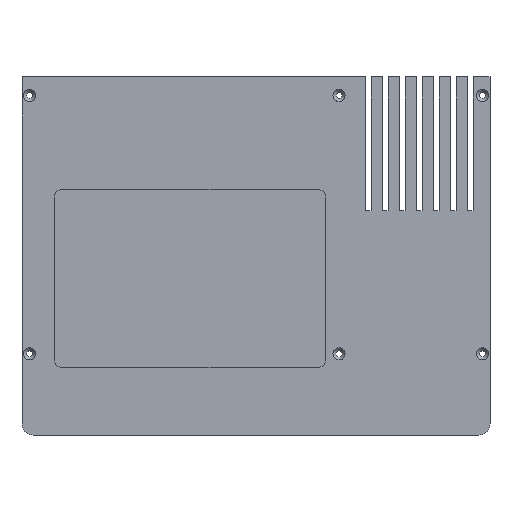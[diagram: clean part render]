
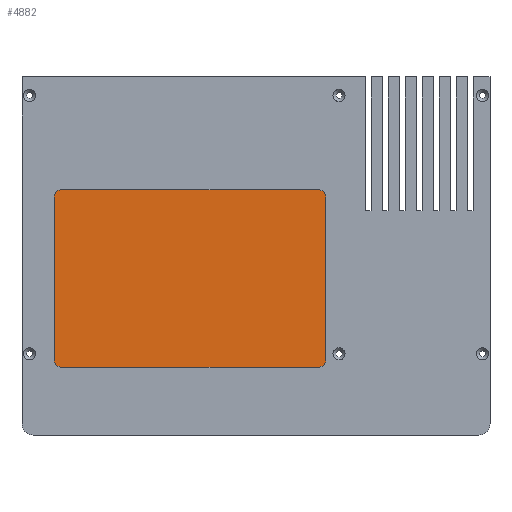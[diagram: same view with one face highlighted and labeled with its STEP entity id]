
A CAD part, top view. The second image highlights one B-rep face of the part: STEP entity #4882.
In plain terms, the highlighted planar face has unit normal (0, 0, 1).
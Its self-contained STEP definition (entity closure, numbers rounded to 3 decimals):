
#1052 = CYLINDRICAL_SURFACE('',#1053,4.);
#1053 = AXIS2_PLACEMENT_3D('',#1054,#1055,#1056);
#1054 = CARTESIAN_POINT('',(21.,40.,70.8));
#1055 = DIRECTION('',(0.,0.,1.));
#1056 = DIRECTION('',(-1.,-0.,0.));
#1079 = PLANE('',#1080);
#1080 = AXIS2_PLACEMENT_3D('',#1081,#1082,#1083);
#1081 = CARTESIAN_POINT('',(17.,36.,70.8));
#1082 = DIRECTION('',(1.,0.,0.));
#1083 = DIRECTION('',(0.,0.,1.));
#1107 = CYLINDRICAL_SURFACE('',#1108,4.);
#1108 = AXIS2_PLACEMENT_3D('',#1109,#1110,#1111);
#1109 = CARTESIAN_POINT('',(21.,126.,70.8));
#1110 = DIRECTION('',(0.,0.,1.));
#1111 = DIRECTION('',(-1.,-0.,0.));
#1134 = PLANE('',#1135);
#1135 = AXIS2_PLACEMENT_3D('',#1136,#1137,#1138);
#1136 = CARTESIAN_POINT('',(17.,130.,70.8));
#1137 = DIRECTION('',(0.,1.,0.));
#1138 = DIRECTION('',(0.,0.,1.));
#1162 = CYLINDRICAL_SURFACE('',#1163,4.);
#1163 = AXIS2_PLACEMENT_3D('',#1164,#1165,#1166);
#1164 = CARTESIAN_POINT('',(157.,126.,70.8));
#1165 = DIRECTION('',(0.,0.,1.));
#1166 = DIRECTION('',(1.,0.,-0.));
#1189 = PLANE('',#1190);
#1190 = AXIS2_PLACEMENT_3D('',#1191,#1192,#1193);
#1191 = CARTESIAN_POINT('',(161.,36.,70.8));
#1192 = DIRECTION('',(1.,0.,0.));
#1193 = DIRECTION('',(0.,0.,1.));
#1217 = CYLINDRICAL_SURFACE('',#1218,4.);
#1218 = AXIS2_PLACEMENT_3D('',#1219,#1220,#1221);
#1219 = CARTESIAN_POINT('',(157.,40.,70.8));
#1220 = DIRECTION('',(0.,0.,1.));
#1221 = DIRECTION('',(1.,0.,-0.));
#1242 = PLANE('',#1243);
#1243 = AXIS2_PLACEMENT_3D('',#1244,#1245,#1246);
#1244 = CARTESIAN_POINT('',(17.,36.,70.8));
#1245 = DIRECTION('',(0.,1.,0.));
#1246 = DIRECTION('',(0.,0.,1.));
#3442 = VERTEX_POINT('',#3443);
#3443 = CARTESIAN_POINT('',(17.,40.,70.8));
#3464 = EDGE_CURVE('',#3442,#3465,#3467,.T.);
#3465 = VERTEX_POINT('',#3466);
#3466 = CARTESIAN_POINT('',(21.,36.,70.8));
#3467 = SURFACE_CURVE('',#3468,(#3473,#3480),.PCURVE_S1.);
#3468 = CIRCLE('',#3469,4.);
#3469 = AXIS2_PLACEMENT_3D('',#3470,#3471,#3472);
#3470 = CARTESIAN_POINT('',(21.,40.,70.8));
#3471 = DIRECTION('',(0.,0.,1.));
#3472 = DIRECTION('',(0.,-1.,0.));
#3473 = PCURVE('',#1052,#3474);
#3474 = DEFINITIONAL_REPRESENTATION('',(#3475),#3479);
#3475 = LINE('',#3476,#3477);
#3476 = CARTESIAN_POINT('',(-4.712,0.));
#3477 = VECTOR('',#3478,1.);
#3478 = DIRECTION('',(1.,0.));
#3479 = ( GEOMETRIC_REPRESENTATION_CONTEXT(2) 
PARAMETRIC_REPRESENTATION_CONTEXT() REPRESENTATION_CONTEXT('2D SPACE',''
  ) );
#3480 = PCURVE('',#3481,#3486);
#3481 = PLANE('',#3482);
#3482 = AXIS2_PLACEMENT_3D('',#3483,#3484,#3485);
#3483 = CARTESIAN_POINT('',(17.,36.,70.8));
#3484 = DIRECTION('',(0.,0.,1.));
#3485 = DIRECTION('',(1.,0.,0.));
#3486 = DEFINITIONAL_REPRESENTATION('',(#3487),#3491);
#3487 = CIRCLE('',#3488,4.);
#3488 = AXIS2_PLACEMENT_2D('',#3489,#3490);
#3489 = CARTESIAN_POINT('',(4.,4.));
#3490 = DIRECTION('',(0.,-1.));
#3491 = ( GEOMETRIC_REPRESENTATION_CONTEXT(2) 
PARAMETRIC_REPRESENTATION_CONTEXT() REPRESENTATION_CONTEXT('2D SPACE',''
  ) );
#3520 = EDGE_CURVE('',#3442,#3521,#3523,.T.);
#3521 = VERTEX_POINT('',#3522);
#3522 = CARTESIAN_POINT('',(17.,126.,70.8));
#3523 = SURFACE_CURVE('',#3524,(#3528,#3535),.PCURVE_S1.);
#3524 = LINE('',#3525,#3526);
#3525 = CARTESIAN_POINT('',(17.,36.,70.8));
#3526 = VECTOR('',#3527,1.);
#3527 = DIRECTION('',(0.,1.,0.));
#3528 = PCURVE('',#1079,#3529);
#3529 = DEFINITIONAL_REPRESENTATION('',(#3530),#3534);
#3530 = LINE('',#3531,#3532);
#3531 = CARTESIAN_POINT('',(0.,0.));
#3532 = VECTOR('',#3533,1.);
#3533 = DIRECTION('',(0.,-1.));
#3534 = ( GEOMETRIC_REPRESENTATION_CONTEXT(2) 
PARAMETRIC_REPRESENTATION_CONTEXT() REPRESENTATION_CONTEXT('2D SPACE',''
  ) );
#3535 = PCURVE('',#3481,#3536);
#3536 = DEFINITIONAL_REPRESENTATION('',(#3537),#3541);
#3537 = LINE('',#3538,#3539);
#3538 = CARTESIAN_POINT('',(0.,0.));
#3539 = VECTOR('',#3540,1.);
#3540 = DIRECTION('',(0.,1.));
#3541 = ( GEOMETRIC_REPRESENTATION_CONTEXT(2) 
PARAMETRIC_REPRESENTATION_CONTEXT() REPRESENTATION_CONTEXT('2D SPACE',''
  ) );
#3567 = EDGE_CURVE('',#3465,#3568,#3570,.T.);
#3568 = VERTEX_POINT('',#3569);
#3569 = CARTESIAN_POINT('',(157.,36.,70.8));
#3570 = SURFACE_CURVE('',#3571,(#3575,#3582),.PCURVE_S1.);
#3571 = LINE('',#3572,#3573);
#3572 = CARTESIAN_POINT('',(17.,36.,70.8));
#3573 = VECTOR('',#3574,1.);
#3574 = DIRECTION('',(1.,0.,0.));
#3575 = PCURVE('',#1242,#3576);
#3576 = DEFINITIONAL_REPRESENTATION('',(#3577),#3581);
#3577 = LINE('',#3578,#3579);
#3578 = CARTESIAN_POINT('',(0.,0.));
#3579 = VECTOR('',#3580,1.);
#3580 = DIRECTION('',(0.,1.));
#3581 = ( GEOMETRIC_REPRESENTATION_CONTEXT(2) 
PARAMETRIC_REPRESENTATION_CONTEXT() REPRESENTATION_CONTEXT('2D SPACE',''
  ) );
#3582 = PCURVE('',#3481,#3583);
#3583 = DEFINITIONAL_REPRESENTATION('',(#3584),#3588);
#3584 = LINE('',#3585,#3586);
#3585 = CARTESIAN_POINT('',(0.,0.));
#3586 = VECTOR('',#3587,1.);
#3587 = DIRECTION('',(1.,0.));
#3588 = ( GEOMETRIC_REPRESENTATION_CONTEXT(2) 
PARAMETRIC_REPRESENTATION_CONTEXT() REPRESENTATION_CONTEXT('2D SPACE',''
  ) );
#3617 = EDGE_CURVE('',#3521,#3618,#3620,.T.);
#3618 = VERTEX_POINT('',#3619);
#3619 = CARTESIAN_POINT('',(21.,130.,70.8));
#3620 = SURFACE_CURVE('',#3621,(#3626,#3633),.PCURVE_S1.);
#3621 = CIRCLE('',#3622,4.);
#3622 = AXIS2_PLACEMENT_3D('',#3623,#3624,#3625);
#3623 = CARTESIAN_POINT('',(21.,126.,70.8));
#3624 = DIRECTION('',(-0.,-0.,-1.));
#3625 = DIRECTION('',(0.,-1.,0.));
#3626 = PCURVE('',#1107,#3627);
#3627 = DEFINITIONAL_REPRESENTATION('',(#3628),#3632);
#3628 = LINE('',#3629,#3630);
#3629 = CARTESIAN_POINT('',(1.571,-0.));
#3630 = VECTOR('',#3631,1.);
#3631 = DIRECTION('',(-1.,0.));
#3632 = ( GEOMETRIC_REPRESENTATION_CONTEXT(2) 
PARAMETRIC_REPRESENTATION_CONTEXT() REPRESENTATION_CONTEXT('2D SPACE',''
  ) );
#3633 = PCURVE('',#3481,#3634);
#3634 = DEFINITIONAL_REPRESENTATION('',(#3635),#3643);
#3635 = ( BOUNDED_CURVE() B_SPLINE_CURVE(2,(#3636,#3637,#3638,#3639,
#3640,#3641,#3642),.UNSPECIFIED.,.T.,.F.) B_SPLINE_CURVE_WITH_KNOTS((1,2
    ,2,2,2,1),(-2.094,0.,2.094,4.189,
6.283,8.378),.UNSPECIFIED.) CURVE() 
GEOMETRIC_REPRESENTATION_ITEM() RATIONAL_B_SPLINE_CURVE((1.,0.5,1.,0.5,
1.,0.5,1.)) REPRESENTATION_ITEM('') );
#3636 = CARTESIAN_POINT('',(4.,86.));
#3637 = CARTESIAN_POINT('',(-2.928,86.));
#3638 = CARTESIAN_POINT('',(0.536,92.));
#3639 = CARTESIAN_POINT('',(4.,98.));
#3640 = CARTESIAN_POINT('',(7.464,92.));
#3641 = CARTESIAN_POINT('',(10.928,86.));
#3642 = CARTESIAN_POINT('',(4.,86.));
#3643 = ( GEOMETRIC_REPRESENTATION_CONTEXT(2) 
PARAMETRIC_REPRESENTATION_CONTEXT() REPRESENTATION_CONTEXT('2D SPACE',''
  ) );
#3671 = VERTEX_POINT('',#3672);
#3672 = CARTESIAN_POINT('',(161.,40.,70.8));
#3693 = EDGE_CURVE('',#3671,#3568,#3694,.T.);
#3694 = SURFACE_CURVE('',#3695,(#3700,#3707),.PCURVE_S1.);
#3695 = CIRCLE('',#3696,4.);
#3696 = AXIS2_PLACEMENT_3D('',#3697,#3698,#3699);
#3697 = CARTESIAN_POINT('',(157.,40.,70.8));
#3698 = DIRECTION('',(-0.,-0.,-1.));
#3699 = DIRECTION('',(0.,-1.,0.));
#3700 = PCURVE('',#1217,#3701);
#3701 = DEFINITIONAL_REPRESENTATION('',(#3702),#3706);
#3702 = LINE('',#3703,#3704);
#3703 = CARTESIAN_POINT('',(4.712,-0.));
#3704 = VECTOR('',#3705,1.);
#3705 = DIRECTION('',(-1.,0.));
#3706 = ( GEOMETRIC_REPRESENTATION_CONTEXT(2) 
PARAMETRIC_REPRESENTATION_CONTEXT() REPRESENTATION_CONTEXT('2D SPACE',''
  ) );
#3707 = PCURVE('',#3481,#3708);
#3708 = DEFINITIONAL_REPRESENTATION('',(#3709),#3717);
#3709 = ( BOUNDED_CURVE() B_SPLINE_CURVE(2,(#3710,#3711,#3712,#3713,
#3714,#3715,#3716),.UNSPECIFIED.,.T.,.F.) B_SPLINE_CURVE_WITH_KNOTS((1,2
    ,2,2,2,1),(-2.094,0.,2.094,4.189,
6.283,8.378),.UNSPECIFIED.) CURVE() 
GEOMETRIC_REPRESENTATION_ITEM() RATIONAL_B_SPLINE_CURVE((1.,0.5,1.,0.5,
1.,0.5,1.)) REPRESENTATION_ITEM('') );
#3710 = CARTESIAN_POINT('',(140.,0.));
#3711 = CARTESIAN_POINT('',(133.072,0.));
#3712 = CARTESIAN_POINT('',(136.536,6.));
#3713 = CARTESIAN_POINT('',(140.,12.));
#3714 = CARTESIAN_POINT('',(143.464,6.));
#3715 = CARTESIAN_POINT('',(146.928,0.));
#3716 = CARTESIAN_POINT('',(140.,0.));
#3717 = ( GEOMETRIC_REPRESENTATION_CONTEXT(2) 
PARAMETRIC_REPRESENTATION_CONTEXT() REPRESENTATION_CONTEXT('2D SPACE',''
  ) );
#3724 = EDGE_CURVE('',#3618,#3725,#3727,.T.);
#3725 = VERTEX_POINT('',#3726);
#3726 = CARTESIAN_POINT('',(157.,130.,70.8));
#3727 = SURFACE_CURVE('',#3728,(#3732,#3739),.PCURVE_S1.);
#3728 = LINE('',#3729,#3730);
#3729 = CARTESIAN_POINT('',(17.,130.,70.8));
#3730 = VECTOR('',#3731,1.);
#3731 = DIRECTION('',(1.,0.,0.));
#3732 = PCURVE('',#1134,#3733);
#3733 = DEFINITIONAL_REPRESENTATION('',(#3734),#3738);
#3734 = LINE('',#3735,#3736);
#3735 = CARTESIAN_POINT('',(0.,0.));
#3736 = VECTOR('',#3737,1.);
#3737 = DIRECTION('',(0.,1.));
#3738 = ( GEOMETRIC_REPRESENTATION_CONTEXT(2) 
PARAMETRIC_REPRESENTATION_CONTEXT() REPRESENTATION_CONTEXT('2D SPACE',''
  ) );
#3739 = PCURVE('',#3481,#3740);
#3740 = DEFINITIONAL_REPRESENTATION('',(#3741),#3745);
#3741 = LINE('',#3742,#3743);
#3742 = CARTESIAN_POINT('',(0.,94.));
#3743 = VECTOR('',#3744,1.);
#3744 = DIRECTION('',(1.,0.));
#3745 = ( GEOMETRIC_REPRESENTATION_CONTEXT(2) 
PARAMETRIC_REPRESENTATION_CONTEXT() REPRESENTATION_CONTEXT('2D SPACE',''
  ) );
#3775 = EDGE_CURVE('',#3671,#3776,#3778,.T.);
#3776 = VERTEX_POINT('',#3777);
#3777 = CARTESIAN_POINT('',(161.,126.,70.8));
#3778 = SURFACE_CURVE('',#3779,(#3783,#3790),.PCURVE_S1.);
#3779 = LINE('',#3780,#3781);
#3780 = CARTESIAN_POINT('',(161.,36.,70.8));
#3781 = VECTOR('',#3782,1.);
#3782 = DIRECTION('',(0.,1.,0.));
#3783 = PCURVE('',#1189,#3784);
#3784 = DEFINITIONAL_REPRESENTATION('',(#3785),#3789);
#3785 = LINE('',#3786,#3787);
#3786 = CARTESIAN_POINT('',(0.,0.));
#3787 = VECTOR('',#3788,1.);
#3788 = DIRECTION('',(0.,-1.));
#3789 = ( GEOMETRIC_REPRESENTATION_CONTEXT(2) 
PARAMETRIC_REPRESENTATION_CONTEXT() REPRESENTATION_CONTEXT('2D SPACE',''
  ) );
#3790 = PCURVE('',#3481,#3791);
#3791 = DEFINITIONAL_REPRESENTATION('',(#3792),#3796);
#3792 = LINE('',#3793,#3794);
#3793 = CARTESIAN_POINT('',(144.,0.));
#3794 = VECTOR('',#3795,1.);
#3795 = DIRECTION('',(0.,1.));
#3796 = ( GEOMETRIC_REPRESENTATION_CONTEXT(2) 
PARAMETRIC_REPRESENTATION_CONTEXT() REPRESENTATION_CONTEXT('2D SPACE',''
  ) );
#3823 = EDGE_CURVE('',#3776,#3725,#3824,.T.);
#3824 = SURFACE_CURVE('',#3825,(#3830,#3837),.PCURVE_S1.);
#3825 = CIRCLE('',#3826,4.);
#3826 = AXIS2_PLACEMENT_3D('',#3827,#3828,#3829);
#3827 = CARTESIAN_POINT('',(157.,126.,70.8));
#3828 = DIRECTION('',(0.,0.,1.));
#3829 = DIRECTION('',(0.,-1.,0.));
#3830 = PCURVE('',#1162,#3831);
#3831 = DEFINITIONAL_REPRESENTATION('',(#3832),#3836);
#3832 = LINE('',#3833,#3834);
#3833 = CARTESIAN_POINT('',(-1.571,0.));
#3834 = VECTOR('',#3835,1.);
#3835 = DIRECTION('',(1.,0.));
#3836 = ( GEOMETRIC_REPRESENTATION_CONTEXT(2) 
PARAMETRIC_REPRESENTATION_CONTEXT() REPRESENTATION_CONTEXT('2D SPACE',''
  ) );
#3837 = PCURVE('',#3481,#3838);
#3838 = DEFINITIONAL_REPRESENTATION('',(#3839),#3843);
#3839 = CIRCLE('',#3840,4.);
#3840 = AXIS2_PLACEMENT_2D('',#3841,#3842);
#3841 = CARTESIAN_POINT('',(140.,90.));
#3842 = DIRECTION('',(0.,-1.));
#3843 = ( GEOMETRIC_REPRESENTATION_CONTEXT(2) 
PARAMETRIC_REPRESENTATION_CONTEXT() REPRESENTATION_CONTEXT('2D SPACE',''
  ) );
#4882 = ADVANCED_FACE('',(#4883),#3481,.T.);
#4883 = FACE_BOUND('',#4884,.T.);
#4884 = EDGE_LOOP('',(#4885,#4886,#4887,#4888,#4889,#4890,#4891,#4892));
#4885 = ORIENTED_EDGE('',*,*,#3520,.F.);
#4886 = ORIENTED_EDGE('',*,*,#3464,.T.);
#4887 = ORIENTED_EDGE('',*,*,#3567,.T.);
#4888 = ORIENTED_EDGE('',*,*,#3693,.F.);
#4889 = ORIENTED_EDGE('',*,*,#3775,.T.);
#4890 = ORIENTED_EDGE('',*,*,#3823,.T.);
#4891 = ORIENTED_EDGE('',*,*,#3724,.F.);
#4892 = ORIENTED_EDGE('',*,*,#3617,.F.);
